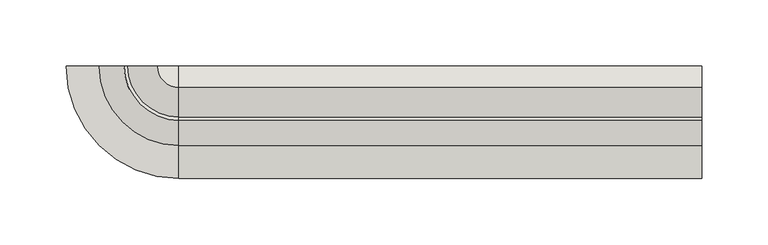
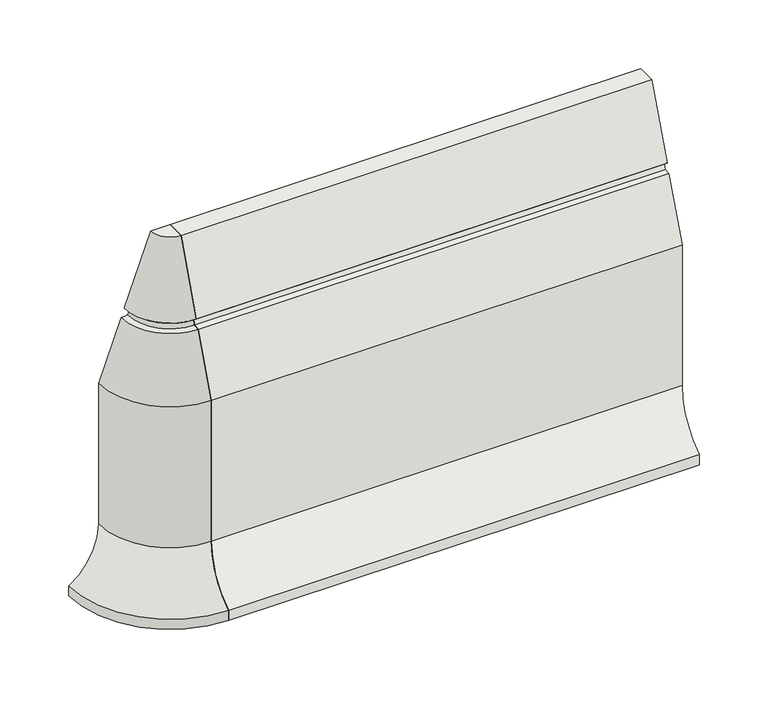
"""IFC4 building model written with IfcOpenShell, lengths in millimetres: wall geometry, GM_PC_UN_ACO kerb PB outside corner_ACO : PB H300 standard."""

from ifc_helpers import new_model, si_unit, frame, origin, place, context, project, spatial, polyline, circle_curve, source, transform, mapped, element, save
from ifc_brep_helpers import plane_surface, cylinder_surface, revolved_surface, extruded_surface, spline_curve, advanced_brep


def wall_ed18798e(model_context):
    return source(origin(), model_context, "Body", "AdvancedBrep", [
        advanced_brep(
        [(0.0, -85.0, 8.9329844), (0.0, -60.02016, 54.9904169), (0.0, -60.02016, 180.0038512), (0.0, -41.0897152, 231.6973826), (0.0, -35.6304755, 232.1929291), (0.0, -34.2965161, 236.00239), (0.0, -38.3747848, 239.3170113), (0.0, -16.191681, 300.0008401), (0.0, 0.0, 300.0008401), (0.0, 0.0, -0.0124899), (0.0, -85.0, -0.0124899), (395.0, -85.0, 8.9329844), (395.0, -85.0, -0.0124899), (395.0, 0.0, -0.0124899), (395.0, 0.0, 300.0008401), (395.0, -16.191681, 300.0008401), (395.0, -38.3747848, 239.3170113), (395.0, -34.2965161, 236.00239), (395.0, -35.6304755, 232.1929291), (395.0, -41.0897152, 231.6973826), (395.0, -60.02016, 180.0038512), (395.0, -60.02016, 54.9904169)],
        [
            (0, 1, spline_curve(3, [(0.0, -85.0, 8.9329844), (0.0, -69.4194957, 19.0724445), (0.0, -60.0210198, 36.401179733), (0.0, -60.02016, 54.9904169)], [4, 4], [0.0, 1.0])),
            (1, 2),
            (2, 3),
            (3, 4),
            (4, 5),
            (5, 6),
            (6, 7),
            (7, 8),
            (8, 9),
            (9, 10),
            (10, 0),
            (11, 12),
            (12, 13),
            (13, 14),
            (14, 15),
            (15, 16),
            (16, 17),
            (17, 18),
            (18, 19),
            (19, 20),
            (20, 21),
            (21, 11, spline_curve(3, [(395.0, -60.02016, 54.9904169), (395.0, -60.0210198, 36.401179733), (395.0, -69.4194957, 19.0724445), (395.0, -85.0, 8.9329844)], [4, 4], [0.0, 1.0])),
            (0, 11),
            (21, 1),
            (20, 2),
            (19, 3),
            (18, 4),
            (17, 5),
            (16, 6),
            (15, 7),
            (14, 8),
            (13, 9),
            (12, 10),
        ],
        [
            plane_surface(frame((0.0, 0.0, 0.0), z_axis=(-1.0, 0.0, 0.0), x_axis=(0.0, 0.0, 1.0))),
            plane_surface(frame((395.0, 0.0, 0.0), z_axis=(1.0, 0.0, 0.0), x_axis=(0.0, 0.0, 1.0))),
            extruded_surface(spline_curve(3, [(395.0, -85.0, 8.9329844), (395.0, -69.4194957, 19.0724445), (395.0, -60.0210198, 36.401179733), (395.0, -60.02016, 54.9904169)], [4, 4], [0.0, 1.0]), (-395.0, 0.0, 0.0), 395.0),
            plane_surface(frame((0.0, -60.02016, 54.9904169), z_axis=(0.0, -1.0, 0.0), x_axis=(1.0, 0.0, 0.0))),
            plane_surface(frame((0.0, -60.02016, 180.0038512), z_axis=(0.0, -0.9390162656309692, 0.34387272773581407), x_axis=(1.0, 0.0, 0.0))),
            plane_surface(frame((0.0, -41.0897152, 231.6973826), z_axis=(0.0, -0.09040040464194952, 0.995905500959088), x_axis=(1.0, 0.0, 0.0))),
            plane_surface(frame((0.0, -35.6304755, 232.1929291), z_axis=(0.0, -0.9438082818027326, 0.3304934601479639), x_axis=(1.0, 0.0, 0.0))),
            plane_surface(frame((0.0, -34.2965161, 236.00239), z_axis=(0.0, -0.6307104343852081, -0.776018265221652), x_axis=(1.0, 0.0, 0.0))),
            plane_surface(frame((0.0, -38.3747848, 239.3170113), z_axis=(0.0, -0.9392141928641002, 0.3433317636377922), x_axis=(1.0, 0.0, 0.0))),
            plane_surface(frame((0.0, -16.191681, 300.0008401), z_axis=(0.0, 0.0, 1.0), x_axis=(1.0, 0.0, 0.0))),
            plane_surface(frame((0.0, 0.0, 300.0008401), z_axis=(0.0, 1.0, 0.0), x_axis=(1.0, 0.0, 0.0))),
            plane_surface(frame((0.0, 0.0, -0.0124899), z_axis=(0.0, 0.0, -1.0), x_axis=(1.0, 0.0, 0.0))),
            plane_surface(frame((0.0, -85.0, -0.0124899), z_axis=(0.0, -1.0, 0.0), x_axis=(1.0, 0.0, 0.0))),
        ],
        [
            (0, [[1, 2, 3, 4, 5, 6, 7, 8, 9, 10, 11]]),
            (1, [[12, 13, 14, 15, 16, 17, 18, 19, 20, 21, 22]]),
            (2, [[-1, 23, -22, 24]]),
            (3, [[-2, -24, -21, 25]]),
            (4, [[-3, -25, -20, 26]]),
            (5, [[-4, -26, -19, 27]]),
            (6, [[-5, -27, -18, 28]]),
            (7, [[-6, -28, -17, 29]]),
            (8, [[-7, -29, -16, 30]]),
            (9, [[-8, -30, -15, 31]]),
            (10, [[-9, -31, -14, 32]]),
            (11, [[-10, -32, -13, 33]]),
            (12, [[-11, -33, -12, -23]]),
        ],
    ),
        advanced_brep(
        [(-85.0, 0.0, 8.9329844), (-60.02016, 0.0, 54.9904169), (-60.02016, 0.0, 180.0038512), (-41.0897152, 0.0, 231.6973826), (-35.6304755, 0.0, 232.1929291), (-34.2965161, 0.0, 236.00239), (-38.3747848, 0.0, 239.3170113), (-16.191681, 0.0, 300.0), (0.0, 0.0, 300.0), (0.0, 0.0, 0.0), (-85.0, 0.0, 0.0), (0.0, -85.0, 8.9329844), (0.0, -85.0, 0.0), (0.0, -16.191681, 300.0), (0.0, -38.3747848, 239.3170113), (0.0, -34.2965161, 236.00239), (0.0, -35.6304755, 232.1929291), (0.0, -41.0897152, 231.6973826), (0.0, -60.02016, 180.0038512), (0.0, -60.02016, 54.9904169)],
        [
            (0, 1, spline_curve(3, [(-85.0, 0.0, 8.9329844), (-69.4194957, 0.0, 19.0724445), (-60.0210198, 0.0, 36.401179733), (-60.02016, 0.0, 54.9904169)], [4, 4], [0.0, 1.0])),
            (1, 2),
            (2, 3),
            (3, 4),
            (4, 5),
            (5, 6),
            (6, 7),
            (7, 8),
            (8, 9),
            (9, 10),
            (10, 0),
            (11, 12),
            (12, 9),
            (8, 13),
            (13, 14),
            (14, 15),
            (15, 16),
            (16, 17),
            (17, 18),
            (18, 19),
            (19, 11, spline_curve(3, [(0.0, -60.02016, 54.9904169), (0.0, -60.0210198, 36.401179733), (0.0, -69.4194957, 19.0724445), (0.0, -85.0, 8.9329844)], [4, 4], [0.0, 1.0])),
            (19, 1, circle_curve(frame((0.0, 0.0, 54.9904169), z_axis=(0.0, 0.0, -1.0), x_axis=(-1.0000000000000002, 0.0, 0.0)), 60.02016)),
            (0, 11, circle_curve(frame((0.0, 0.0, 8.9329844), z_axis=(0.0, 0.0, 1.0), x_axis=(-1.0000000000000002, 0.0, 0.0)), 85.0)),
            (18, 2, circle_curve(frame((0.0, 0.0, 180.0038512), z_axis=(0.0, 0.0, -1.0), x_axis=(-1.0000000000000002, 0.0, 0.0)), 60.02016)),
            (17, 3, circle_curve(frame((0.0, 0.0, 231.6973826), z_axis=(0.0, 0.0, -1.0), x_axis=(-1.0000000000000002, 0.0, 0.0)), 41.0897152)),
            (16, 4, circle_curve(frame((0.0, 0.0, 232.1929291), z_axis=(0.0, 0.0, -1.0), x_axis=(-1.0000000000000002, 0.0, 0.0)), 35.6304755)),
            (15, 5, circle_curve(frame((0.0, 0.0, 236.00239), z_axis=(0.0, 0.0, -1.0), x_axis=(-1.0000000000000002, 0.0, 0.0)), 34.2965161)),
            (14, 6, circle_curve(frame((0.0, 0.0, 239.3170113), z_axis=(0.0, 0.0, -1.0), x_axis=(-1.0000000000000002, 0.0, 0.0)), 38.3747848)),
            (13, 7, circle_curve(frame((0.0, 0.0, 300.0), z_axis=(0.0, 0.0, -1.0), x_axis=(-1.0000000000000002, 0.0, 0.0)), 16.191681)),
            (12, 10, circle_curve(frame((0.0, 0.0, 0.0), z_axis=(0.0, 0.0, -1.0), x_axis=(-1.0000000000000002, 0.0, 0.0)), 85.0)),
        ],
        [
            plane_surface(frame((0.0, 0.0, 559.9991599), z_axis=(0.0, 1.0, 0.0), x_axis=(-1.0, 0.0, 0.0))),
            plane_surface(frame((0.0, 0.0, 559.9991599), z_axis=(1.0, 0.0, 0.0), x_axis=(0.0, -1.0, 0.0))),
            revolved_surface(spline_curve(3, [(-85.0, 0.0, 8.9329844), (-69.4194957, 0.0, 19.0724445), (-60.0210198, 0.0, 36.401179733), (-60.02016, 0.0, 54.9904169)], [4, 4], [0.0, 1.0]), (0.0, 0.0, 559.9991599), (0.0, 0.0, 1.0)),
            cylinder_surface(frame((0.0, 0.0, 559.9991599), z_axis=(0.0, 0.0, 1.0), x_axis=(-1.0000000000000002, 0.0, 0.0)), 60.02016),
            revolved_surface(polyline([(-60.02016, 0.0, 180.0038512), (-41.0897152, 0.0, 231.6973826)]), (0.0, 0.0, 559.9991599), (0.0, 0.0, 1.0)),
            revolved_surface(polyline([(-41.0897152, 0.0, 231.6973826), (-35.6304755, 0.0, 232.1929291)]), (0.0, 0.0, 559.9991599), (0.0, 0.0, 1.0)),
            revolved_surface(polyline([(-35.6304755, 0.0, 232.1929291), (-34.2965161, 0.0, 236.00239)]), (0.0, 0.0, 559.9991599), (0.0, 0.0, 1.0)),
            revolved_surface(polyline([(-34.2965161, 0.0, 236.00239), (-38.3747848, 0.0, 239.3170113)]), (0.0, 0.0, 559.9991599), (0.0, 0.0, 1.0)),
            revolved_surface(polyline([(-38.3747848, 0.0, 239.3170113), (-16.191681, 0.0, 300.0)]), (0.0, 0.0, 559.9991599), (0.0, 0.0, 1.0)),
            plane_surface(frame((0.0, 0.0, 300.0), z_axis=(0.0, 0.0, 1.0), x_axis=(-1.0, 0.0, 0.0))),
            plane_surface(frame((0.0, 0.0, 0.0), z_axis=(0.0, 0.0, -1.0), x_axis=(-1.0, 0.0, 0.0))),
            cylinder_surface(frame((0.0, 0.0, 559.9991599), z_axis=(0.0, 0.0, 1.0), x_axis=(-1.0000000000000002, 0.0, 0.0)), 85.0),
        ],
        [
            (0, [[1, 2, 3, 4, 5, 6, 7, 8, 9, 10, 11]]),
            (1, [[12, 13, -9, 14, 15, 16, 17, 18, 19, 20, 21]]),
            (2, [[22, -1, 23, -21]]),
            (3, [[24, -2, -22, -20]]),
            (4, [[25, -3, -24, -19]]),
            (5, [[26, -4, -25, -18]]),
            (6, [[27, -5, -26, -17]]),
            (7, [[28, -6, -27, -16]]),
            (8, [[29, -7, -28, -15]]),
            (9, [[-8, -29, -14]]),
            (10, [[30, -10, -13]]),
            (11, [[-23, -11, -30, -12]]),
        ],
    ),
    ])


if __name__ == "__main__":
    model = new_model("IFC4")
    model_context = context("Model", 3, world=origin())
    ifc_project = project(units=[si_unit("LENGTHUNIT", "METRE", prefix="MILLI")], contexts=[model_context])
    site = spatial("IfcSite", under=ifc_project)
    building = spatial("IfcBuilding", under=site)
    placement = place(None, origin())
    wall_shape = wall_ed18798e(model_context)
    element("IfcWall", 1, ObjectType="GM_PC_UN_ACO kerb PB outside corner_ACO : PB H300 standard", at=placement, inside=building, context=model_context, shape_type="MappedRepresentation", body=[
        mapped(wall_shape, transform((0.0, 0.0, 0.0), x_axis=(1.0, 0.0, 0.0), y_axis=(0.0, 1.0, 0.0), z_axis=(0.0, 0.0, 1.0))),
    ])
    save(model, "model.ifc")
